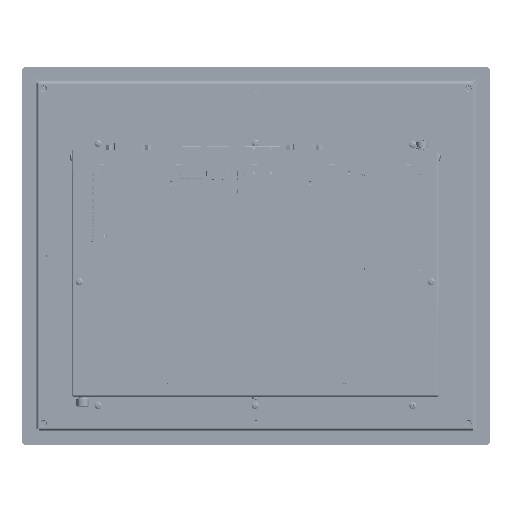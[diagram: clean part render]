
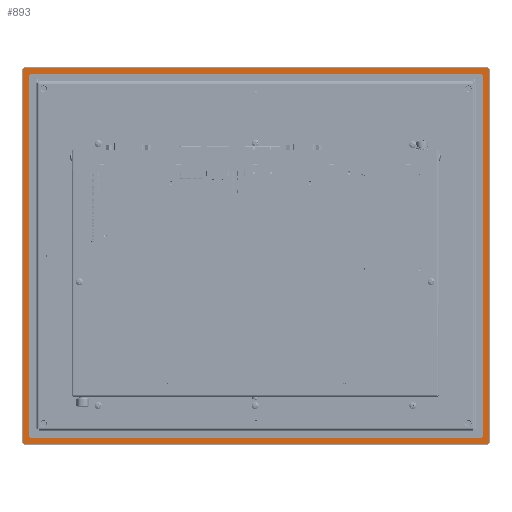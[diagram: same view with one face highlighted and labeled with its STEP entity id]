
A CAD part, front view. The second image highlights one B-rep face of the part: STEP entity #893.
In plain terms, the highlighted planar face has unit normal (0, -1, 0).
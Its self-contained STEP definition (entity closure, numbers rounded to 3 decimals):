
#893 = ADVANCED_FACE ( 'NONE', ( #727899, #114660 ), #564310, .T. ) ;
#12955 = CARTESIAN_POINT ( 'NONE',  ( 194., 0.5, -144.5 ) ) ;
#15075 = CIRCLE ( 'NONE', #371023, 2. ) ;
#33682 = CARTESIAN_POINT ( 'NONE',  ( -192., 0.5, -144.5 ) ) ;
#33867 = DIRECTION ( 'NONE',  ( 0., 0., -1. ) ) ;
#44785 = CARTESIAN_POINT ( 'NONE',  ( -188., 0.5, 160.5 ) ) ;
#65023 = CARTESIAN_POINT ( 'NONE',  ( 192., 0.5, -146.5 ) ) ;
#69036 = DIRECTION ( 'NONE',  ( 0., 0., -1. ) ) ;
#69703 = DIRECTION ( 'NONE',  ( 0., -1., 0. ) ) ;
#71496 = CARTESIAN_POINT ( 'NONE',  ( -194., 0.5, 164.5 ) ) ;
#82753 = CARTESIAN_POINT ( 'NONE',  ( 188., 0.5, -141.5 ) ) ;
#89738 = DIRECTION ( 'NONE',  ( 0., 1., 0. ) ) ;
#102969 = DIRECTION ( 'NONE',  ( -1., 0., 0. ) ) ;
#114660 = FACE_OUTER_BOUND ( 'NONE', #701380, .T. ) ;
#140128 = VERTEX_POINT ( 'NONE', #82753 ) ;
#142708 = CARTESIAN_POINT ( 'NONE',  ( -192., 0.5, 164.5 ) ) ;
#149521 = DIRECTION ( 'NONE',  ( 0., 0., -1. ) ) ;
#154529 = DIRECTION ( 'NONE',  ( 0., 1., 0. ) ) ;
#162165 = AXIS2_PLACEMENT_3D ( 'NONE', #414732, #69703, #188065 ) ;
#163212 = DIRECTION ( 'NONE',  ( 0., 0., 1. ) ) ;
#166434 = ORIENTED_EDGE ( 'NONE', *, *, #263826, .F. ) ;
#171273 = CARTESIAN_POINT ( 'NONE',  ( -192., 0.5, -146.5 ) ) ;
#172919 = DIRECTION ( 'NONE',  ( -1., 0., 0. ) ) ;
#183588 = DIRECTION ( 'NONE',  ( 0., 1., 0. ) ) ;
#183701 = AXIS2_PLACEMENT_3D ( 'NONE', #410464, #296962, #172919 ) ;
#184962 = VERTEX_POINT ( 'NONE', #279252 ) ;
#185517 = ORIENTED_EDGE ( 'NONE', *, *, #724891, .F. ) ;
#188065 = DIRECTION ( 'NONE',  ( 1., 0., 0. ) ) ;
#188560 = DIRECTION ( 'NONE',  ( 0., 0., 1. ) ) ;
#195631 = ORIENTED_EDGE ( 'NONE', *, *, #689329, .F. ) ;
#197937 = CIRCLE ( 'NONE', #641886, 1. ) ;
#205671 = DIRECTION ( 'NONE',  ( 0., -1., 0. ) ) ;
#205982 = CARTESIAN_POINT ( 'NONE',  ( -188., 0.5, -141.5 ) ) ;
#208309 = LINE ( 'NONE', #657063, #424314 ) ;
#209592 = EDGE_CURVE ( 'NONE', #272855, #517214, #474601, .T. ) ;
#211806 = VERTEX_POINT ( 'NONE', #71496 ) ;
#213501 = EDGE_CURVE ( 'NONE', #661281, #211806, #732357, .T. ) ;
#216662 = DIRECTION ( 'NONE',  ( 0., -1., 0. ) ) ;
#221075 = ORIENTED_EDGE ( 'NONE', *, *, #237529, .F. ) ;
#224091 = VERTEX_POINT ( 'NONE', #436750 ) ;
#224150 = DIRECTION ( 'NONE',  ( -1., 0., 0. ) ) ;
#226381 = EDGE_CURVE ( 'NONE', #412822, #184962, #389433, .T. ) ;
#230005 = AXIS2_PLACEMENT_3D ( 'NONE', #569260, #216662, #224150 ) ;
#237529 = EDGE_CURVE ( 'NONE', #517214, #363646, #616242, .T. ) ;
#241277 = DIRECTION ( 'NONE',  ( -1., 0., 0. ) ) ;
#250382 = ORIENTED_EDGE ( 'NONE', *, *, #611029, .F. ) ;
#250816 = ORIENTED_EDGE ( 'NONE', *, *, #213501, .F. ) ;
#253740 = VECTOR ( 'NONE', #33867, 1000. ) ;
#263826 = EDGE_CURVE ( 'NONE', #607158, #716390, #472305, .T. ) ;
#268787 = DIRECTION ( 'NONE',  ( 1., 0., 0. ) ) ;
#270978 = VERTEX_POINT ( 'NONE', #408388 ) ;
#272855 = VERTEX_POINT ( 'NONE', #416121 ) ;
#279252 = CARTESIAN_POINT ( 'NONE',  ( 188., 0.5, 161.5 ) ) ;
#286095 = ORIENTED_EDGE ( 'NONE', *, *, #209592, .F. ) ;
#291572 = CARTESIAN_POINT ( 'NONE',  ( 189., 0.5, 160.5 ) ) ;
#296962 = DIRECTION ( 'NONE',  ( 0., -1., 0. ) ) ;
#304202 = ORIENTED_EDGE ( 'NONE', *, *, #226381, .F. ) ;
#306077 = EDGE_CURVE ( 'NONE', #184962, #745911, #745453, .T. ) ;
#313081 = CARTESIAN_POINT ( 'NONE',  ( -194., 0.5, -144.5 ) ) ;
#313954 = DIRECTION ( 'NONE',  ( -1., 0., 0. ) ) ;
#318779 = ORIENTED_EDGE ( 'NONE', *, *, #608059, .F. ) ;
#322214 = ORIENTED_EDGE ( 'NONE', *, *, #537666, .F. ) ;
#335107 = EDGE_CURVE ( 'NONE', #363646, #607158, #747926, .T. ) ;
#349425 = AXIS2_PLACEMENT_3D ( 'NONE', #526837, #582255, #476296 ) ;
#361763 = ORIENTED_EDGE ( 'NONE', *, *, #469674, .F. ) ;
#363646 = VERTEX_POINT ( 'NONE', #12955 ) ;
#366675 = VERTEX_POINT ( 'NONE', #621639 ) ;
#371023 = AXIS2_PLACEMENT_3D ( 'NONE', #142708, #89738, #313954 ) ;
#380082 = ORIENTED_EDGE ( 'NONE', *, *, #600671, .F. ) ;
#380253 = LINE ( 'NONE', #600813, #253740 ) ;
#389433 = CIRCLE ( 'NONE', #162165, 1. ) ;
#390882 = CARTESIAN_POINT ( 'NONE',  ( -192., 0.5, 166.5 ) ) ;
#404961 = ORIENTED_EDGE ( 'NONE', *, *, #470007, .F. ) ;
#408388 = CARTESIAN_POINT ( 'NONE',  ( -189., 0.5, 160.5 ) ) ;
#408643 = VECTOR ( 'NONE', #241277, 1000. ) ;
#410464 = CARTESIAN_POINT ( 'NONE',  ( -188., 0.5, -140.5 ) ) ;
#411779 = ORIENTED_EDGE ( 'NONE', *, *, #335107, .F. ) ;
#412822 = VERTEX_POINT ( 'NONE', #291572 ) ;
#414732 = CARTESIAN_POINT ( 'NONE',  ( 188., 0.5, 160.5 ) ) ;
#416121 = CARTESIAN_POINT ( 'NONE',  ( 192., 0.5, 166.5 ) ) ;
#424314 = VECTOR ( 'NONE', #427750, 1000. ) ;
#425646 = VECTOR ( 'NONE', #713895, 1000. ) ;
#427750 = DIRECTION ( 'NONE',  ( 0., 0., 1. ) ) ;
#436750 = CARTESIAN_POINT ( 'NONE',  ( 189., 0.5, -140.5 ) ) ;
#444911 = VECTOR ( 'NONE', #69036, 1000. ) ;
#445257 = CARTESIAN_POINT ( 'NONE',  ( 192., 0.5, -146.5 ) ) ;
#445717 = CARTESIAN_POINT ( 'NONE',  ( 188., 0.5, 161.5 ) ) ;
#447508 = VECTOR ( 'NONE', #102969, 1000. ) ;
#448012 = CARTESIAN_POINT ( 'NONE',  ( -194., 0.5, -144.5 ) ) ;
#465786 = CARTESIAN_POINT ( 'NONE',  ( 192., 0.5, 164.5 ) ) ;
#469674 = EDGE_CURVE ( 'NONE', #270978, #366675, #380253, .T. ) ;
#470007 = EDGE_CURVE ( 'NONE', #224091, #412822, #208309, .T. ) ;
#472305 = LINE ( 'NONE', #65023, #408643 ) ;
#474601 = CIRCLE ( 'NONE', #743873, 2. ) ;
#476296 = DIRECTION ( 'NONE',  ( 1., 0., 0. ) ) ;
#478574 = VERTEX_POINT ( 'NONE', #683831 ) ;
#485465 = DIRECTION ( 'NONE',  ( 0., 0., -1. ) ) ;
#510012 = VECTOR ( 'NONE', #268787, 1000. ) ;
#517214 = VERTEX_POINT ( 'NONE', #704228 ) ;
#526837 = CARTESIAN_POINT ( 'NONE',  ( 192., 0.5, -144.5 ) ) ;
#527182 = CIRCLE ( 'NONE', #551383, 2. ) ;
#528022 = LINE ( 'NONE', #205982, #510012 ) ;
#537666 = EDGE_CURVE ( 'NONE', #745911, #270978, #621621, .T. ) ;
#551383 = AXIS2_PLACEMENT_3D ( 'NONE', #33682, #154529, #149521 ) ;
#564310 = PLANE ( 'NONE',  #230005 ) ;
#569260 = CARTESIAN_POINT ( 'NONE',  ( 0., 0.5, 0. ) ) ;
#582255 = DIRECTION ( 'NONE',  ( 0., 1., 0. ) ) ;
#591748 = EDGE_LOOP ( 'NONE', ( #318779, #250382, #361763, #322214, #710991, #304202, #404961, #195631 ) ) ;
#600671 = EDGE_CURVE ( 'NONE', #211806, #667271, #15075, .T. ) ;
#600813 = CARTESIAN_POINT ( 'NONE',  ( -189., 0.5, 160.5 ) ) ;
#602245 = EDGE_CURVE ( 'NONE', #716390, #661281, #527182, .T. ) ;
#607158 = VERTEX_POINT ( 'NONE', #445257 ) ;
#608059 = EDGE_CURVE ( 'NONE', #478574, #140128, #528022, .T. ) ;
#611029 = EDGE_CURVE ( 'NONE', #366675, #478574, #734191, .T. ) ;
#616242 = LINE ( 'NONE', #711323, #444911 ) ;
#619242 = DIRECTION ( 'NONE',  ( 0., -1., 0. ) ) ;
#621621 = CIRCLE ( 'NONE', #738186, 1. ) ;
#621639 = CARTESIAN_POINT ( 'NONE',  ( -189., 0.5, -140.5 ) ) ;
#633292 = CARTESIAN_POINT ( 'NONE',  ( -188., 0.5, 161.5 ) ) ;
#641886 = AXIS2_PLACEMENT_3D ( 'NONE', #719684, #205671, #485465 ) ;
#657063 = CARTESIAN_POINT ( 'NONE',  ( 189., 0.5, -140.5 ) ) ;
#661281 = VERTEX_POINT ( 'NONE', #448012 ) ;
#667271 = VERTEX_POINT ( 'NONE', #684227 ) ;
#670761 = DIRECTION ( 'NONE',  ( 1., 0., 0. ) ) ;
#683831 = CARTESIAN_POINT ( 'NONE',  ( -188., 0.5, -141.5 ) ) ;
#684227 = CARTESIAN_POINT ( 'NONE',  ( -192., 0.5, 166.5 ) ) ;
#689329 = EDGE_CURVE ( 'NONE', #140128, #224091, #197937, .T. ) ;
#692850 = LINE ( 'NONE', #390882, #729114 ) ;
#701380 = EDGE_LOOP ( 'NONE', ( #221075, #286095, #185517, #380082, #250816, #733104, #166434, #411779 ) ) ;
#704228 = CARTESIAN_POINT ( 'NONE',  ( 194., 0.5, 164.5 ) ) ;
#710991 = ORIENTED_EDGE ( 'NONE', *, *, #306077, .F. ) ;
#711323 = CARTESIAN_POINT ( 'NONE',  ( 194., 0.5, 164.5 ) ) ;
#713895 = DIRECTION ( 'NONE',  ( 0., 0., 1. ) ) ;
#716390 = VERTEX_POINT ( 'NONE', #171273 ) ;
#719684 = CARTESIAN_POINT ( 'NONE',  ( 188., 0.5, -140.5 ) ) ;
#724891 = EDGE_CURVE ( 'NONE', #667271, #272855, #692850, .T. ) ;
#727899 = FACE_BOUND ( 'NONE', #591748, .T. ) ;
#729114 = VECTOR ( 'NONE', #670761, 1000. ) ;
#732357 = LINE ( 'NONE', #313081, #425646 ) ;
#733104 = ORIENTED_EDGE ( 'NONE', *, *, #602245, .F. ) ;
#734191 = CIRCLE ( 'NONE', #183701, 1. ) ;
#738186 = AXIS2_PLACEMENT_3D ( 'NONE', #44785, #619242, #163212 ) ;
#743873 = AXIS2_PLACEMENT_3D ( 'NONE', #465786, #183588, #188560 ) ;
#745453 = LINE ( 'NONE', #445717, #447508 ) ;
#745911 = VERTEX_POINT ( 'NONE', #633292 ) ;
#747926 = CIRCLE ( 'NONE', #349425, 2. ) ;
